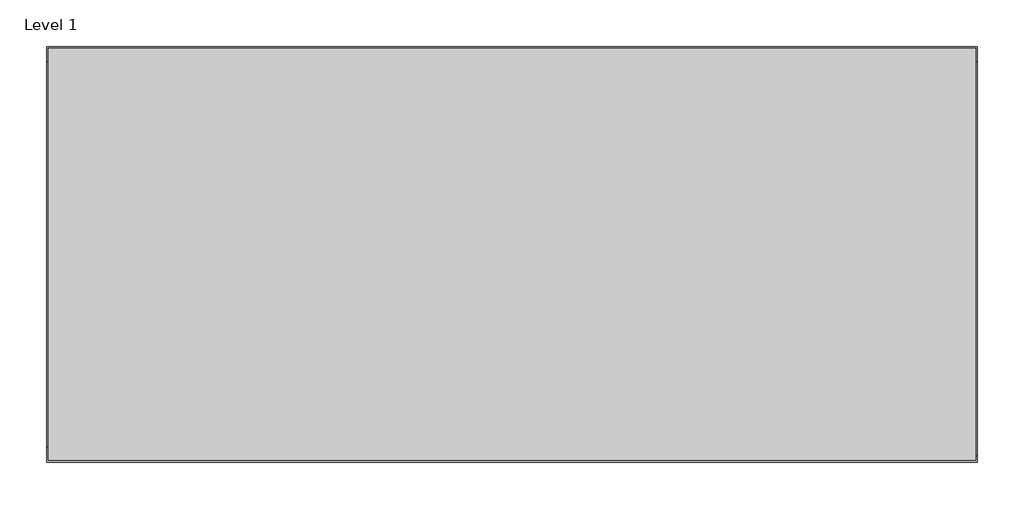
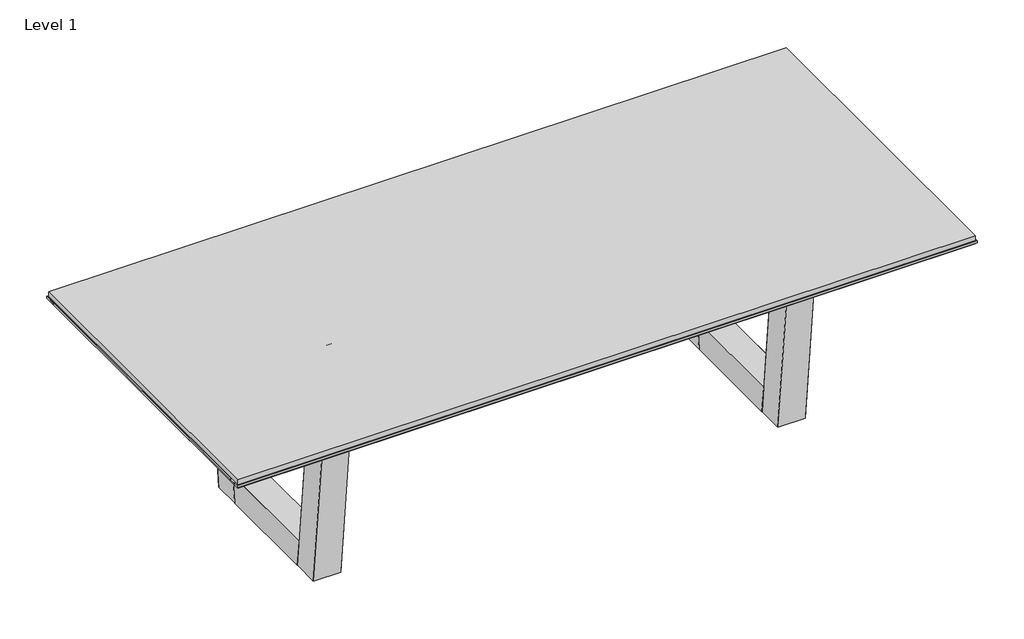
# One storey, incomplete: 10 proxies.
"""IFC4 building model written with IfcOpenShell, lengths in millimetres."""

from ifc_helpers import new_model, si_unit, origin, place, context, project, spatial, transform, mapped, element, save
from components import generic_models_ebd43074, generic_models_582b0730, generic_models_194ffc6f, generic_models_91f66b10, generic_models_8f48aeea, generic_models_53dfa362

model = new_model("IFC4")

# Units and contexts
model_context = context("Model", 3, world=origin())
ifc_project = project(units=[si_unit("LENGTHUNIT", "METRE", prefix="MILLI")], contexts=[model_context])

# Site, building, storey
site = spatial("IfcSite", under=ifc_project)
building = spatial("IfcBuilding", under=site)
storey = spatial("IfcBuildingStorey", under=building, Name="Level 1", Elevation=0.0)

# Proxies
placement = place(None, origin())
generic_models_shape = generic_models_ebd43074(model_context)
element("IfcBuildingElementProxy", 1, Name="IMPRESS^TABLE 2_24 BASE METAL-TOP FRAME", ObjectType="IMPRESS^TABLE 2_24 BASE METAL-TOP FRAME", at=placement, inside=storey, context=model_context, shape_type="MappedRepresentation", body=[
    mapped(generic_models_shape, transform((203.2, -831.85, -50.8), x_axis=(1.0, 0.0, 0.0), y_axis=(0.0, 0.0, 1.0), z_axis=(0.0, -1.0, 0.0))),
])
generic_models_2_shape = generic_models_582b0730(model_context)
element("IfcBuildingElementProxy", 2, Name="IMPRESS^TABLE 2_30in BASE^SIDE KEEL", ObjectType="IMPRESS^TABLE 2_30in BASE^SIDE KEEL", at=placement, inside=storey, context=model_context, shape_type="MappedRepresentation", body=[
    mapped(generic_models_2_shape, transform((2203.45, -863.6, -101.6), x_axis=(-1.0, 0.0, 0.0), y_axis=(0.0, 0.0, 1.0), z_axis=(0.0, 1.0, 0.0))),
])
element("IfcBuildingElementProxy", 3, Name="IMPRESS^TABLE 2_30in BASE^SIDE KEEL", ObjectType="IMPRESS^TABLE 2_30in BASE^SIDE KEEL", at=placement, inside=storey, context=model_context, shape_type="MappedRepresentation", body=[
    mapped(generic_models_2_shape, transform((539.75, -355.6, -101.6), x_axis=(1.0, 0.0, 0.0), y_axis=(0.0, 0.0, 1.0), z_axis=(0.0, -1.0, 0.0))),
])
generic_models_3_shape = generic_models_194ffc6f(model_context)
element("IfcBuildingElementProxy", 4, Name="IMPRESS^TABLE 2_48x108 WOOD LEGS-POWER LID", ObjectType="IMPRESS^TABLE 2_48x108 WOOD LEGS-POWER LID", at=placement, inside=storey, context=model_context, shape_type="MappedRepresentation", body=[
    mapped(generic_models_3_shape, transform((1983.3941511, -708.025, 44.45), x_axis=(0.0, 1.0, 0.0), y_axis=(0.0, 0.0, 1.0), z_axis=(1.0, 0.0, 0.0))),
])
element("IfcBuildingElementProxy", 5, Name="IMPRESS^TABLE 2_48x108 WOOD LEGS-POWER LID", ObjectType="IMPRESS^TABLE 2_48x108 WOOD LEGS-POWER LID", at=placement, inside=storey, context=model_context, shape_type="MappedRepresentation", body=[
    mapped(generic_models_3_shape, transform((759.8058489, -511.175, 44.45), x_axis=(0.0, -1.0, 0.0), y_axis=(0.0, 0.0, 1.0), z_axis=(-1.0, 0.0, 0.0))),
])
generic_models_4_shape = generic_models_91f66b10(model_context)
element("IfcBuildingElementProxy", 6, Name="IMPRESS^TABLE 2_24in BASE_TABLE BASE ASSY 48X28X501", ObjectType="IMPRESS^TABLE 2_24in BASE_TABLE BASE ASSY 48X28X501", at=placement, inside=storey, context=model_context, shape_type="MappedRepresentation", body=[
    mapped(generic_models_4_shape, transform((508.0, -609.6, -685.8), x_axis=(0.0, 1.0, 0.0), y_axis=(0.0, 0.0, 1.0), z_axis=(1.0, 0.0, 0.0))),
])
element("IfcBuildingElementProxy", 7, Name="IMPRESS^TABLE 2_24in BASE_TABLE BASE ASSY 48X28X501", ObjectType="IMPRESS^TABLE 2_24in BASE_TABLE BASE ASSY 48X28X501", at=placement, inside=storey, context=model_context, shape_type="MappedRepresentation", body=[
    mapped(generic_models_4_shape, transform((2235.2, -609.6, -685.8), x_axis=(0.0, -1.0, 0.0), y_axis=(0.0, 0.0, 1.0), z_axis=(-1.0, 0.0, 0.0))),
])
generic_models_5_shape = generic_models_8f48aeea(model_context)
element("IfcBuildingElementProxy", 8, Name="IMPRESS^TABLE 2_24in BASE^END KEEL", ObjectType="IMPRESS^TABLE 2_24in BASE^END KEEL", at=placement, inside=storey, context=model_context, shape_type="MappedRepresentation", body=[
    mapped(generic_models_5_shape, transform((457.2, -884.3208433, 0.0), x_axis=(0.0, 1.0, 0.0), y_axis=(0.0, 0.0, 1.0), z_axis=(1.0, 0.0, 0.0))),
])
element("IfcBuildingElementProxy", 9, Name="IMPRESS^TABLE 2_24in BASE^END KEEL", ObjectType="IMPRESS^TABLE 2_24in BASE^END KEEL", at=placement, inside=storey, context=model_context, shape_type="MappedRepresentation", body=[
    mapped(generic_models_5_shape, transform((2266.95, -884.3208433, 0.0), x_axis=(0.0, 1.0, 0.0), y_axis=(0.0, 0.0, 1.0), z_axis=(1.0, 0.0, 0.0))),
])
generic_models_6_shape = generic_models_53dfa362(model_context)
element("IfcBuildingElementProxy", 10, Name="IMPRESS^TABLE 2_48x108 WOOD LEGS-TOP PARTS SOLID", ObjectType="IMPRESS^TABLE 2_48x108 WOOD LEGS-TOP PARTS SOLID", at=placement, inside=storey, context=model_context, shape_type="MappedRepresentation", body=[
    mapped(generic_models_6_shape, transform((0.0, -1219.2, 38.1), x_axis=(1.0, 0.0, 0.0), y_axis=(0.0, 0.0, 1.0), z_axis=(0.0, -1.0, 0.0))),
])

save(model, "model.ifc")
